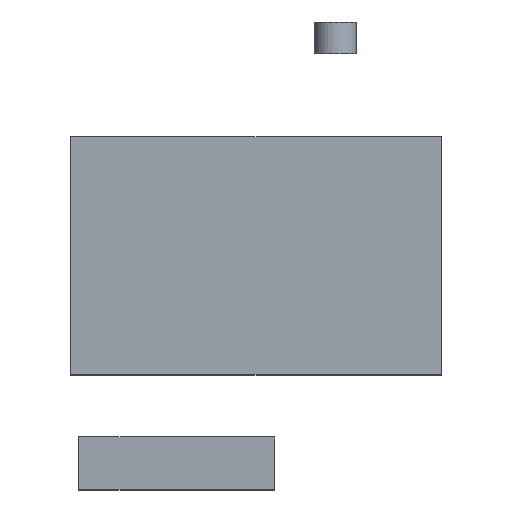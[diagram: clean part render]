
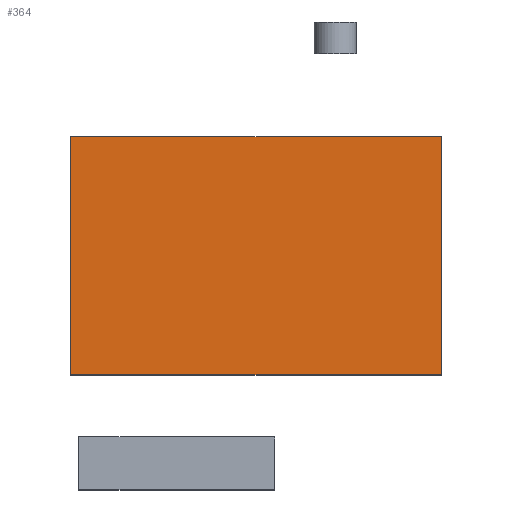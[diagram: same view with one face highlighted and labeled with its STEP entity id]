
A CAD part, top view. The second image highlights one B-rep face of the part: STEP entity #364.
In plain terms, the highlighted planar face has unit normal (0, 0, 1).
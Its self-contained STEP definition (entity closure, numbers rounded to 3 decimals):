
#50 = VERTEX_POINT('',#51);
#51 = CARTESIAN_POINT('',(-70.,-45.,66.));
#58 = PLANE('',#59);
#59 = AXIS2_PLACEMENT_3D('',#60,#61,#62);
#60 = CARTESIAN_POINT('',(-70.,-45.,21.));
#61 = DIRECTION('',(1.,0.,0.));
#62 = DIRECTION('',(0.,0.,1.));
#70 = PLANE('',#71);
#71 = AXIS2_PLACEMENT_3D('',#72,#73,#74);
#72 = CARTESIAN_POINT('',(-70.,-45.,21.));
#73 = DIRECTION('',(0.,1.,0.));
#74 = DIRECTION('',(0.,0.,1.));
#111 = VERTEX_POINT('',#112);
#112 = CARTESIAN_POINT('',(-70.,45.,66.));
#126 = PLANE('',#127);
#127 = AXIS2_PLACEMENT_3D('',#128,#129,#130);
#128 = CARTESIAN_POINT('',(-70.,45.,21.));
#129 = DIRECTION('',(0.,1.,0.));
#130 = DIRECTION('',(0.,0.,1.));
#138 = EDGE_CURVE('',#50,#111,#139,.T.);
#139 = SURFACE_CURVE('',#140,(#144,#151),.PCURVE_S1.);
#140 = LINE('',#141,#142);
#141 = CARTESIAN_POINT('',(-70.,-45.,66.));
#142 = VECTOR('',#143,1.);
#143 = DIRECTION('',(0.,1.,0.));
#144 = PCURVE('',#58,#145);
#145 = DEFINITIONAL_REPRESENTATION('',(#146),#150);
#146 = LINE('',#147,#148);
#147 = CARTESIAN_POINT('',(45.,0.));
#148 = VECTOR('',#149,1.);
#149 = DIRECTION('',(0.,-1.));
#150 = ( GEOMETRIC_REPRESENTATION_CONTEXT(2) 
PARAMETRIC_REPRESENTATION_CONTEXT() REPRESENTATION_CONTEXT('2D SPACE',''
  ) );
#151 = PCURVE('',#152,#157);
#152 = PLANE('',#153);
#153 = AXIS2_PLACEMENT_3D('',#154,#155,#156);
#154 = CARTESIAN_POINT('',(-70.,-45.,66.));
#155 = DIRECTION('',(0.,0.,1.));
#156 = DIRECTION('',(1.,0.,0.));
#157 = DEFINITIONAL_REPRESENTATION('',(#158),#162);
#158 = LINE('',#159,#160);
#159 = CARTESIAN_POINT('',(0.,0.));
#160 = VECTOR('',#161,1.);
#161 = DIRECTION('',(0.,1.));
#162 = ( GEOMETRIC_REPRESENTATION_CONTEXT(2) 
PARAMETRIC_REPRESENTATION_CONTEXT() REPRESENTATION_CONTEXT('2D SPACE',''
  ) );
#170 = VERTEX_POINT('',#171);
#171 = CARTESIAN_POINT('',(70.,-45.,66.));
#178 = PLANE('',#179);
#179 = AXIS2_PLACEMENT_3D('',#180,#181,#182);
#180 = CARTESIAN_POINT('',(70.,-45.,21.));
#181 = DIRECTION('',(1.,0.,0.));
#182 = DIRECTION('',(0.,0.,1.));
#221 = VERTEX_POINT('',#222);
#222 = CARTESIAN_POINT('',(70.,45.,66.));
#243 = EDGE_CURVE('',#170,#221,#244,.T.);
#244 = SURFACE_CURVE('',#245,(#249,#256),.PCURVE_S1.);
#245 = LINE('',#246,#247);
#246 = CARTESIAN_POINT('',(70.,-45.,66.));
#247 = VECTOR('',#248,1.);
#248 = DIRECTION('',(0.,1.,0.));
#249 = PCURVE('',#178,#250);
#250 = DEFINITIONAL_REPRESENTATION('',(#251),#255);
#251 = LINE('',#252,#253);
#252 = CARTESIAN_POINT('',(45.,0.));
#253 = VECTOR('',#254,1.);
#254 = DIRECTION('',(0.,-1.));
#255 = ( GEOMETRIC_REPRESENTATION_CONTEXT(2) 
PARAMETRIC_REPRESENTATION_CONTEXT() REPRESENTATION_CONTEXT('2D SPACE',''
  ) );
#256 = PCURVE('',#152,#257);
#257 = DEFINITIONAL_REPRESENTATION('',(#258),#262);
#258 = LINE('',#259,#260);
#259 = CARTESIAN_POINT('',(140.,0.));
#260 = VECTOR('',#261,1.);
#261 = DIRECTION('',(0.,1.));
#262 = ( GEOMETRIC_REPRESENTATION_CONTEXT(2) 
PARAMETRIC_REPRESENTATION_CONTEXT() REPRESENTATION_CONTEXT('2D SPACE',''
  ) );
#289 = EDGE_CURVE('',#50,#170,#290,.T.);
#290 = SURFACE_CURVE('',#291,(#295,#302),.PCURVE_S1.);
#291 = LINE('',#292,#293);
#292 = CARTESIAN_POINT('',(-70.,-45.,66.));
#293 = VECTOR('',#294,1.);
#294 = DIRECTION('',(1.,0.,0.));
#295 = PCURVE('',#70,#296);
#296 = DEFINITIONAL_REPRESENTATION('',(#297),#301);
#297 = LINE('',#298,#299);
#298 = CARTESIAN_POINT('',(45.,0.));
#299 = VECTOR('',#300,1.);
#300 = DIRECTION('',(0.,1.));
#301 = ( GEOMETRIC_REPRESENTATION_CONTEXT(2) 
PARAMETRIC_REPRESENTATION_CONTEXT() REPRESENTATION_CONTEXT('2D SPACE',''
  ) );
#302 = PCURVE('',#152,#303);
#303 = DEFINITIONAL_REPRESENTATION('',(#304),#308);
#304 = LINE('',#305,#306);
#305 = CARTESIAN_POINT('',(0.,0.));
#306 = VECTOR('',#307,1.);
#307 = DIRECTION('',(1.,0.));
#308 = ( GEOMETRIC_REPRESENTATION_CONTEXT(2) 
PARAMETRIC_REPRESENTATION_CONTEXT() REPRESENTATION_CONTEXT('2D SPACE',''
  ) );
#336 = EDGE_CURVE('',#111,#221,#337,.T.);
#337 = SURFACE_CURVE('',#338,(#342,#349),.PCURVE_S1.);
#338 = LINE('',#339,#340);
#339 = CARTESIAN_POINT('',(-70.,45.,66.));
#340 = VECTOR('',#341,1.);
#341 = DIRECTION('',(1.,0.,0.));
#342 = PCURVE('',#126,#343);
#343 = DEFINITIONAL_REPRESENTATION('',(#344),#348);
#344 = LINE('',#345,#346);
#345 = CARTESIAN_POINT('',(45.,0.));
#346 = VECTOR('',#347,1.);
#347 = DIRECTION('',(0.,1.));
#348 = ( GEOMETRIC_REPRESENTATION_CONTEXT(2) 
PARAMETRIC_REPRESENTATION_CONTEXT() REPRESENTATION_CONTEXT('2D SPACE',''
  ) );
#349 = PCURVE('',#152,#350);
#350 = DEFINITIONAL_REPRESENTATION('',(#351),#355);
#351 = LINE('',#352,#353);
#352 = CARTESIAN_POINT('',(0.,90.));
#353 = VECTOR('',#354,1.);
#354 = DIRECTION('',(1.,0.));
#355 = ( GEOMETRIC_REPRESENTATION_CONTEXT(2) 
PARAMETRIC_REPRESENTATION_CONTEXT() REPRESENTATION_CONTEXT('2D SPACE',''
  ) );
#364 = ADVANCED_FACE('',(#365),#152,.T.);
#365 = FACE_BOUND('',#366,.T.);
#366 = EDGE_LOOP('',(#367,#368,#369,#370));
#367 = ORIENTED_EDGE('',*,*,#138,.F.);
#368 = ORIENTED_EDGE('',*,*,#289,.T.);
#369 = ORIENTED_EDGE('',*,*,#243,.T.);
#370 = ORIENTED_EDGE('',*,*,#336,.F.);
